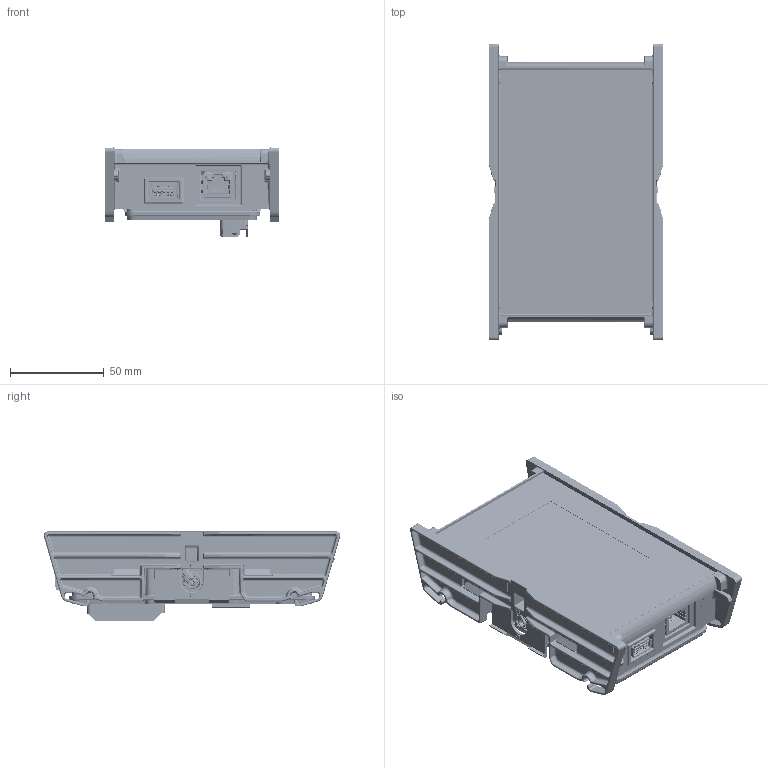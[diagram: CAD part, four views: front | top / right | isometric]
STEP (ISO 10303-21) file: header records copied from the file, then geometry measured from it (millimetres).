
FILE_DESCRIPTION((''),'2;1');
FILE_NAME('6159327830_DIM','2025-03-20T16:28:39',('SYSTEM'),(''),'CREO PARAMETRIC BY PTC INC, 2022414','CREO PARAMETRIC BY PTC INC, 2022414','');
FILE_SCHEMA(('AP242_MANAGED_MODEL_BASED_3D_ENGINEERING_MIM_LF { 1 0 10303 442 1 1 4 }'));
Products named in the file (1): 6159327830_DIM
Bounding box: 93.2 x 158.3 x 47.54 mm (x, y, z)
Surface area: 158340.3 mm2 (no closed solid volume)
Topology: 0 solids, 213 shells, 6293 faces, 29143 edges, 22768 vertices
Faces by surface type: plane 2956, cylinder 1540, bspline 745, cone 385, extrusion 377, torus 172, sphere 116, revolution 2
Entity records: 396024 total; most frequent: CARTESIAN_POINT 141423, ORIENTED_EDGE 42354, DIRECTION 37357, EDGE_CURVE 29074, VERTEX_POINT 22750, VECTOR 15749, LINE 15372, AXIS2_PLACEMENT_3D 10803
